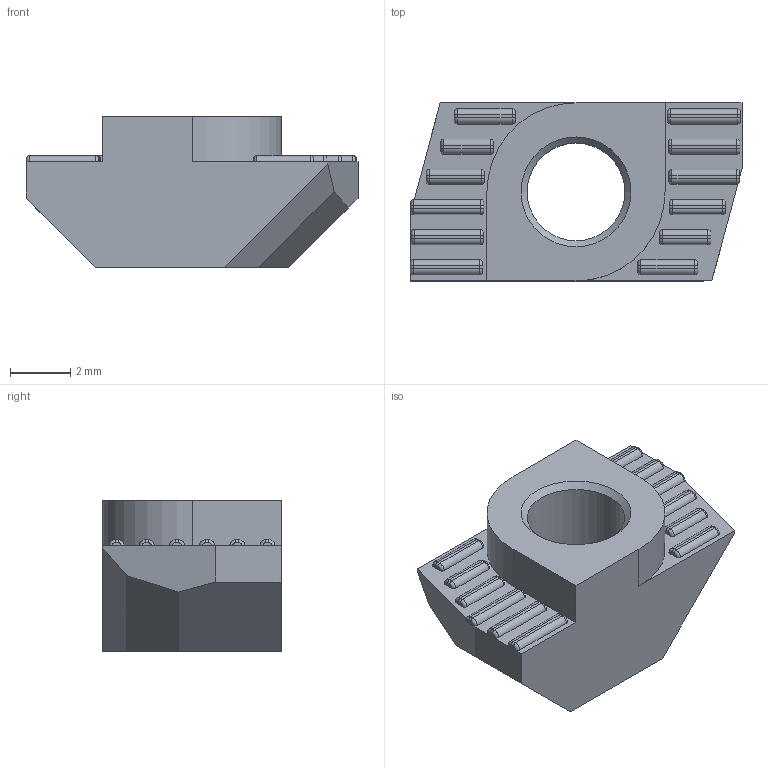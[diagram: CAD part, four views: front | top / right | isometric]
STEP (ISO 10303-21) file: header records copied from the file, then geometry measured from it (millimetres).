
FILE_DESCRIPTION((''),'2;1');
FILE_NAME('E:\catalogue and flyer\Profile catalogue 2015\Accessories JE info\Accessories-JE step file 31MAr16\JE-RN4-6.stp','2016-03-31T16:20:58',('h029'),(''),'Autodesk Inventor 11','Autodesk Inventor 11','');
FILE_SCHEMA(('AUTOMOTIVE_DESIGN { 1 0 10303 214 1 1 1 1 }'));
Length unit declared in the file: millimetre
Products named in the file (1): JE-RN4-6
Bounding box: 11 x 5.9 x 5 mm (x, y, z)
Volume: 188.6 mm3; surface area: 276.5 mm2
Topology: 1 solids, 1 shells, 156 faces, 380 edges, 236 vertices
Faces by surface type: plane 55, bspline 50, cylinder 50, cone 1
Entity records: 6550 total; most frequent: CARTESIAN_POINT 2901, DIRECTION 792, ORIENTED_EDGE 754, EDGE_CURVE 377, AXIS2_PLACEMENT_3D 308, VERTEX_POINT 235, CIRCLE 201, VECTOR 176
